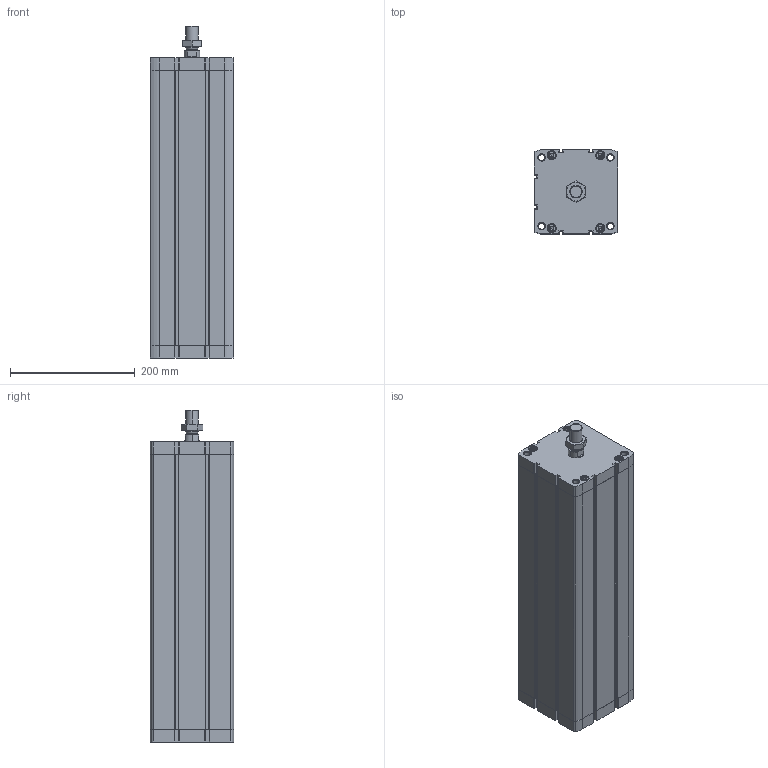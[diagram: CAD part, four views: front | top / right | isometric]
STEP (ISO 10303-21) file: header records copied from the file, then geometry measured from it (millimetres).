
FILE_DESCRIPTION (( 'STEP AP203' ), '1' );
FILE_NAME ('CCN125-400M.STEP', '2020-06-05T19:25:55', ( '' ), ( '' ), 'SwSTEP 2.0', 'SolidWorks 2019', '' );
FILE_SCHEMA (( 'CONFIG_CONTROL_DESIGN' ));
Length unit declared in the file: millimetre
Products named in the file (1): CCN125-400M
Bounding box: 134.6 x 134.6 x 532 mm (x, y, z)
Volume: 3645459 mm3; surface area: 663125.4 mm2
Topology: 3 solids, 3 shells, 555 faces, 1412 edges, 886 vertices
Faces by surface type: plane 275, cylinder 196, cone 80, torus 4
Entity records: 18163 total; most frequent: CARTESIAN_POINT 4452, DIRECTION 2966, ORIENTED_EDGE 2792, EDGE_CURVE 1396, AXIS2_PLACEMENT_3D 1092, VERTEX_POINT 886, LINE 782, VECTOR 782
